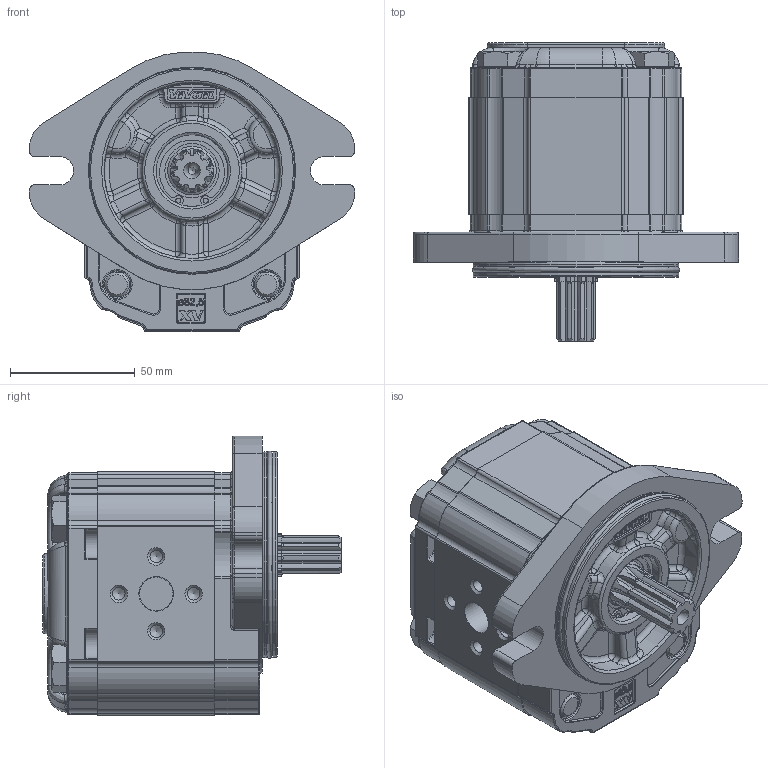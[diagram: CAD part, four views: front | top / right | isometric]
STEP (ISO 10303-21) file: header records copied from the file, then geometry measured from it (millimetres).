
FILE_DESCRIPTION(/* description */ ('Unknown'),/* implementation_level */ '2;1');
FILE_NAME(/* name */ 'X2R4131IOOE',/* time_stamp */ '2021-04-14T20:00:10+02:00',/* author */ ('Unknown'),/* organization */ ('Unknown'),/* preprocessor_version */ 'ST-DEVELOPER v16.7',/* originating_system */ 'Solid Edge',/* authorisation */ 'Unknown');
FILE_SCHEMA (('AUTOMOTIVE_DESIGN {1 0 10303 214 3 1 1}'));
Products named in the file (5): X2R4131IOOE; X2R31; 2I; X2OOH47; XR219-E
Assembly tree (4 placements, depth 2):
  X2R4131IOOE
    X2R31
    2I
    X2OOH47
    XR219-E
Bounding box: 130.38 x 119.7 x 112.3 mm (x, y, z)
Volume: 652365.9 mm3; surface area: 106911.9 mm2
Topology: 4 solids, 5 shells, 1569 faces, 3972 edges, 2480 vertices
Faces by surface type: plane 600, cylinder 443, bspline 210, torus 201, cone 89, sphere 26
Full cylindrical faces by diameter (mm): 2 x2, 4.917 x4, 5 x4, 11 x2, 11.445 x1, 11.5 x4, 13.5 x2, 16 x4, 17.42 x1, 17.48 x2, 18.724 x1, 20.595 x1, 21.741 x1, 25.834 x1, 28.56 x1, 28.57 x1, 28.8 x1, 30.4 x1, 79.6 x2, 82.5 x2
Entity records: 59389 total; most frequent: CARTESIAN_POINT 12975, ORIENTED_EDGE 7656, DIRECTION 7366, EDGE_CURVE 3828, AXIS2_PLACEMENT_3D 2727, VERTEX_POINT 2436, LINE 1912, VECTOR 1912
